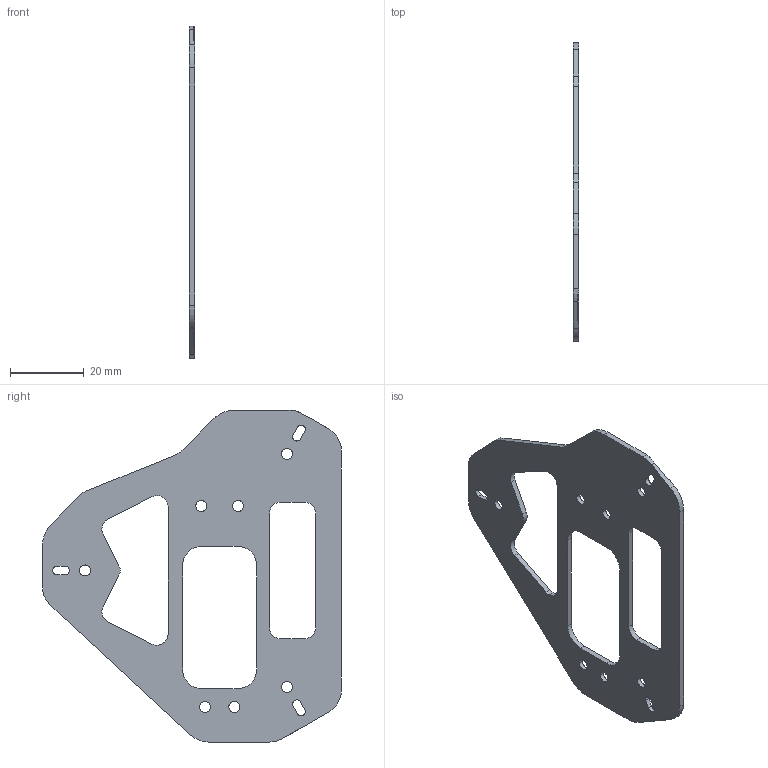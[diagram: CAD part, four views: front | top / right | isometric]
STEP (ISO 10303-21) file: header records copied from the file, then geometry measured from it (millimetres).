
FILE_DESCRIPTION (( 'STEP AP203' ), '1' );
FILE_NAME ('PEN-XL.STEP', '2025-01-21T11:55:46', ( '' ), ( '' ), 'SwSTEP 2.0', 'SolidWorks 2024', '' );
FILE_SCHEMA (( 'CONFIG_CONTROL_DESIGN' ));
Length unit declared in the file: millimetre
Products named in the file (1): PEN-XL
Bounding box: 1.5 x 81 x 90 mm (x, y, z)
Volume: 5388.4 mm3; surface area: 8367.8 mm2
Topology: 1 solids, 1 shells, 109 faces, 329 edges, 226 vertices
Faces by surface type: cylinder 62, plane 47
Entity records: 4100 total; most frequent: CARTESIAN_POINT 1072, ORIENTED_EDGE 658, DIRECTION 558, EDGE_CURVE 329, VERTEX_POINT 226, AXIS2_PLACEMENT_3D 207, LINE 144, VECTOR 144
